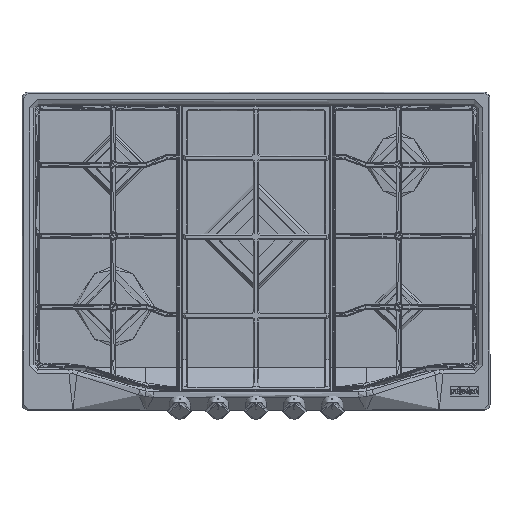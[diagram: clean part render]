
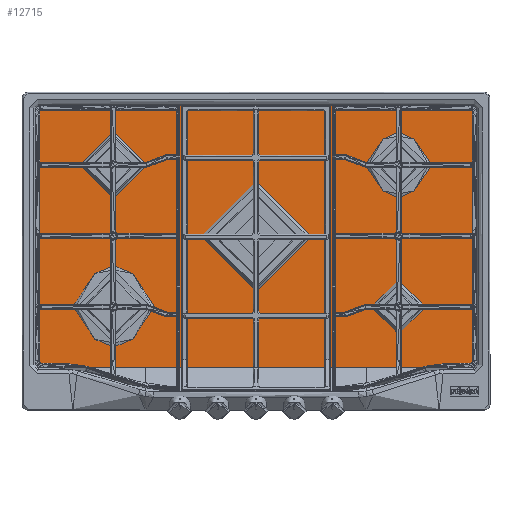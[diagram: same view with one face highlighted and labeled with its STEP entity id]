
A CAD part, top view. The second image highlights one B-rep face of the part: STEP entity #12715.
In plain terms, the highlighted planar face has unit normal (0, 0, 1).
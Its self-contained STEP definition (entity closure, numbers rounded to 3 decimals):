
#65=(
BOUNDED_CURVE()
B_SPLINE_CURVE(3,(#219998,#219999,#220000,#220001),.UNSPECIFIED.,.F.,.F.)
B_SPLINE_CURVE_WITH_KNOTS((4,4),(-11.644,0.),.UNSPECIFIED.)
CURVE()
GEOMETRIC_REPRESENTATION_ITEM()
RATIONAL_B_SPLINE_CURVE((1.,0.925,0.925,1.))
REPRESENTATION_ITEM('')
);
#66=(
BOUNDED_CURVE()
B_SPLINE_CURVE(3,(#220002,#220003,#220004,#220005),.UNSPECIFIED.,.F.,.F.)
B_SPLINE_CURVE_WITH_KNOTS((4,4),(-11.589,0.),.UNSPECIFIED.)
CURVE()
GEOMETRIC_REPRESENTATION_ITEM()
RATIONAL_B_SPLINE_CURVE((1.,0.926,0.926,1.))
REPRESENTATION_ITEM('')
);
#67=(
BOUNDED_CURVE()
B_SPLINE_CURVE(3,(#220010,#220011,#220012,#220013),.UNSPECIFIED.,.F.,.F.)
B_SPLINE_CURVE_WITH_KNOTS((4,4),(0.,11.589),.UNSPECIFIED.)
CURVE()
GEOMETRIC_REPRESENTATION_ITEM()
RATIONAL_B_SPLINE_CURVE((1.,0.926,0.926,1.))
REPRESENTATION_ITEM('')
);
#68=(
BOUNDED_CURVE()
B_SPLINE_CURVE(3,(#220016,#220017,#220018,#220019),.UNSPECIFIED.,.F.,.F.)
B_SPLINE_CURVE_WITH_KNOTS((4,4),(-11.644,0.),.UNSPECIFIED.)
CURVE()
GEOMETRIC_REPRESENTATION_ITEM()
RATIONAL_B_SPLINE_CURVE((1.,0.925,0.925,1.))
REPRESENTATION_ITEM('')
);
#487=FACE_BOUND('',#37689,.T.);
#488=FACE_BOUND('',#37690,.T.);
#489=FACE_BOUND('',#37691,.T.);
#490=FACE_BOUND('',#37692,.T.);
#491=FACE_BOUND('',#37693,.T.);
#12715=ADVANCED_FACE('',(#25199,#487,#488,#489,#490,#491),#134319,.T.);
#25199=FACE_OUTER_BOUND('',#37688,.T.);
#37688=EDGE_LOOP('',(#74969,#74970,#74971,#74972,#74973,#74974,#74975,#74976,
#74977,#74978,#74979,#74980));
#37689=EDGE_LOOP('',(#74981));
#37690=EDGE_LOOP('',(#74982));
#37691=EDGE_LOOP('',(#74983));
#37692=EDGE_LOOP('',(#74984));
#37693=EDGE_LOOP('',(#74985));
#74969=ORIENTED_EDGE('',*,*,#94975,.F.);
#74970=ORIENTED_EDGE('',*,*,#94909,.F.);
#74971=ORIENTED_EDGE('',*,*,#94976,.F.);
#74972=ORIENTED_EDGE('',*,*,#94977,.F.);
#74973=ORIENTED_EDGE('',*,*,#94888,.F.);
#74974=ORIENTED_EDGE('',*,*,#94883,.F.);
#74975=ORIENTED_EDGE('',*,*,#94852,.F.);
#74976=ORIENTED_EDGE('',*,*,#94978,.T.);
#74977=ORIENTED_EDGE('',*,*,#94979,.T.);
#74978=ORIENTED_EDGE('',*,*,#94980,.T.);
#74979=ORIENTED_EDGE('',*,*,#94981,.F.);
#74980=ORIENTED_EDGE('',*,*,#94894,.F.);
#74981=ORIENTED_EDGE('',*,*,#94903,.F.);
#74982=ORIENTED_EDGE('',*,*,#94991,.T.);
#74983=ORIENTED_EDGE('',*,*,#94905,.F.);
#74984=ORIENTED_EDGE('',*,*,#94985,.T.);
#74985=ORIENTED_EDGE('',*,*,#94892,.F.);
#94852=EDGE_CURVE('',#121512,#121513,#114631,.T.);
#94883=EDGE_CURVE('',#121513,#121521,#114653,.T.);
#94888=EDGE_CURVE('',#121521,#121527,#114658,.T.);
#94892=EDGE_CURVE('',#121530,#121530,#96076,.T.);
#94894=EDGE_CURVE('',#121535,#121532,#114662,.T.);
#94903=EDGE_CURVE('',#121541,#121541,#96083,.T.);
#94905=EDGE_CURVE('',#121542,#121542,#96085,.T.);
#94909=EDGE_CURVE('',#121546,#121537,#114666,.T.);
#94975=EDGE_CURVE('',#121537,#121535,#65,.T.);
#94976=EDGE_CURVE('',#121549,#121546,#66,.T.);
#94977=EDGE_CURVE('',#121527,#121549,#114704,.T.);
#94978=EDGE_CURVE('',#121512,#121558,#114705,.T.);
#94979=EDGE_CURVE('',#121558,#121559,#67,.T.);
#94980=EDGE_CURVE('',#121559,#121552,#114706,.T.);
#94981=EDGE_CURVE('',#121532,#121552,#68,.T.);
#94985=EDGE_CURVE('',#121561,#121561,#96089,.T.);
#94991=EDGE_CURVE('',#121560,#121560,#96095,.T.);
#96076=CIRCLE('',#146928,88.156);
#96083=CIRCLE('',#146935,65.435);
#96085=CIRCLE('',#146937,52.937);
#96089=CIRCLE('',#146941,43.212);
#96095=CIRCLE('',#146947,52.937);
#114631=B_SPLINE_CURVE_WITH_KNOTS('',1,(#219239,#219240),.UNSPECIFIED.,
 .F.,.F.,(2,2),(-117.016,0.),.UNSPECIFIED.);
#114653=B_SPLINE_CURVE_WITH_KNOTS('',1,(#219376,#219377),.UNSPECIFIED.,
 .F.,.F.,(2,2),(-353.061,0.),.UNSPECIFIED.);
#114658=B_SPLINE_CURVE_WITH_KNOTS('',1,(#219407,#219408),.UNSPECIFIED.,
 .F.,.F.,(2,2),(-117.016,0.),.UNSPECIFIED.);
#114662=B_SPLINE_CURVE_WITH_KNOTS('',1,(#219434,#219435),.UNSPECIFIED.,
 .F.,.F.,(2,2),(0.,694.059),.UNSPECIFIED.);
#114666=B_SPLINE_CURVE_WITH_KNOTS('',1,(#219467,#219468),.UNSPECIFIED.,
 .F.,.F.,(2,2),(-406.171,0.),.UNSPECIFIED.);
#114704=B_SPLINE_CURVE_WITH_KNOTS('',1,(#220006,#220007),.UNSPECIFIED.,
 .F.,.F.,(2,2),(-53.549,0.),.UNSPECIFIED.);
#114705=B_SPLINE_CURVE_WITH_KNOTS('',1,(#220008,#220009),.UNSPECIFIED.,
 .F.,.F.,(2,2),(0.,53.549),.UNSPECIFIED.);
#114706=B_SPLINE_CURVE_WITH_KNOTS('',1,(#220014,#220015),.UNSPECIFIED.,
 .F.,.F.,(2,2),(0.,406.171),.UNSPECIFIED.);
#121512=VERTEX_POINT('',#218861);
#121513=VERTEX_POINT('',#218862);
#121521=VERTEX_POINT('',#218870);
#121527=VERTEX_POINT('',#218876);
#121530=VERTEX_POINT('',#218879);
#121532=VERTEX_POINT('',#218881);
#121535=VERTEX_POINT('',#218884);
#121537=VERTEX_POINT('',#218886);
#121541=VERTEX_POINT('',#218890);
#121542=VERTEX_POINT('',#218891);
#121546=VERTEX_POINT('',#218895);
#121549=VERTEX_POINT('',#218898);
#121552=VERTEX_POINT('',#218901);
#121558=VERTEX_POINT('',#218907);
#121559=VERTEX_POINT('',#218908);
#121560=VERTEX_POINT('',#218909);
#121561=VERTEX_POINT('',#218910);
#134319=PLANE('',#146913);
#146913=AXIS2_PLACEMENT_3D('',#218442,#159495,$);
#146928=AXIS2_PLACEMENT_3D($,#219431,#159520,#159521);
#146935=AXIS2_PLACEMENT_3D($,#219456,#159534,#159535);
#146937=AXIS2_PLACEMENT_3D($,#219460,#159538,#159539);
#146941=AXIS2_PLACEMENT_3D($,#220031,#159546,#159547);
#146947=AXIS2_PLACEMENT_3D($,#220045,#159558,#159559);
#159495=DIRECTION('',(0.,0.,1.));
#159520=DIRECTION('',(0.,0.,1.));
#159521=DIRECTION('',(1.,0.,0.));
#159534=DIRECTION('',(0.,0.,1.));
#159535=DIRECTION('',(1.,0.,0.));
#159538=DIRECTION('',(0.,0.,1.));
#159539=DIRECTION('',(1.,0.,0.));
#159546=DIRECTION('',(0.,0.,-1.));
#159547=DIRECTION('',(1.,0.,0.));
#159558=DIRECTION('',(0.,0.,-1.));
#159559=DIRECTION('',(1.,0.,0.));
#218442=CARTESIAN_POINT('',(-809.514,-127.523,-12.323));
#218861=CARTESIAN_POINT('',(-88.111,-81.874,-12.323));
#218862=CARTESIAN_POINT('',(-205.128,-81.874,-12.323));
#218870=CARTESIAN_POINT('',(-558.189,-81.874,-12.323));
#218876=CARTESIAN_POINT('',(-675.205,-81.874,-12.323));
#218879=CARTESIAN_POINT('',(-293.107,128.693,-12.323));
#218881=CARTESIAN_POINT('',(-34.629,337.488,-12.323));
#218884=CARTESIAN_POINT('',(-728.688,337.488,-12.323));
#218886=CARTESIAN_POINT('',(-735.111,330.894,-12.323));
#218890=CARTESIAN_POINT('',(-544.221,15.957,-12.323));
#218891=CARTESIAN_POINT('',(-556.998,242.537,-12.323));
#218895=CARTESIAN_POINT('',(-735.111,-75.277,-12.323));
#218898=CARTESIAN_POINT('',(-728.754,-81.874,-12.323));
#218901=CARTESIAN_POINT('',(-28.205,330.894,-12.323));
#218907=CARTESIAN_POINT('',(-34.562,-81.874,-12.323));
#218908=CARTESIAN_POINT('',(-28.205,-75.277,-12.323));
#218909=CARTESIAN_POINT('',(-100.278,242.537,-12.323));
#218910=CARTESIAN_POINT('',(-110.077,14.736,-12.323));
#219239=CARTESIAN_POINT('',(-88.111,-81.874,-12.323));
#219240=CARTESIAN_POINT('',(-205.128,-81.874,-12.323));
#219376=CARTESIAN_POINT('',(-205.128,-81.874,-12.323));
#219377=CARTESIAN_POINT('',(-558.189,-81.874,-12.323));
#219407=CARTESIAN_POINT('',(-558.189,-81.874,-12.323));
#219408=CARTESIAN_POINT('',(-675.205,-81.874,-12.323));
#219431=CARTESIAN_POINT('',(-381.263,128.693,-12.323));
#219434=CARTESIAN_POINT('',(-728.688,337.488,-12.323));
#219435=CARTESIAN_POINT('',(-34.629,337.488,-12.323));
#219456=CARTESIAN_POINT('',(-609.656,15.957,-12.323));
#219460=CARTESIAN_POINT('',(-609.934,242.537,-12.323));
#219467=CARTESIAN_POINT('',(-735.111,-75.277,-12.323));
#219468=CARTESIAN_POINT('',(-735.111,330.894,-12.323));
#219998=CARTESIAN_POINT('',(-735.111,330.894,-12.323));
#219999=CARTESIAN_POINT('',(-735.111,335.112,-12.323));
#220000=CARTESIAN_POINT('',(-732.797,337.488,-12.323));
#220001=CARTESIAN_POINT('',(-728.688,337.488,-12.323));
#220002=CARTESIAN_POINT('',(-728.754,-81.874,-12.323));
#220003=CARTESIAN_POINT('',(-732.823,-81.874,-12.323));
#220004=CARTESIAN_POINT('',(-735.111,-79.5,-12.323));
#220005=CARTESIAN_POINT('',(-735.111,-75.277,-12.323));
#220006=CARTESIAN_POINT('',(-675.205,-81.874,-12.323));
#220007=CARTESIAN_POINT('',(-728.754,-81.874,-12.323));
#220008=CARTESIAN_POINT('',(-88.111,-81.874,-12.323));
#220009=CARTESIAN_POINT('',(-34.562,-81.874,-12.323));
#220010=CARTESIAN_POINT('',(-34.562,-81.874,-12.323));
#220011=CARTESIAN_POINT('',(-30.493,-81.874,-12.323));
#220012=CARTESIAN_POINT('',(-28.205,-79.5,-12.323));
#220013=CARTESIAN_POINT('',(-28.205,-75.277,-12.323));
#220014=CARTESIAN_POINT('',(-28.205,-75.277,-12.323));
#220015=CARTESIAN_POINT('',(-28.205,330.894,-12.323));
#220016=CARTESIAN_POINT('',(-34.629,337.488,-12.323));
#220017=CARTESIAN_POINT('',(-30.519,337.488,-12.323));
#220018=CARTESIAN_POINT('',(-28.205,335.112,-12.323));
#220019=CARTESIAN_POINT('',(-28.205,330.894,-12.323));
#220031=CARTESIAN_POINT('',(-153.289,14.736,-12.323));
#220045=CARTESIAN_POINT('',(-153.214,242.537,-12.323));
